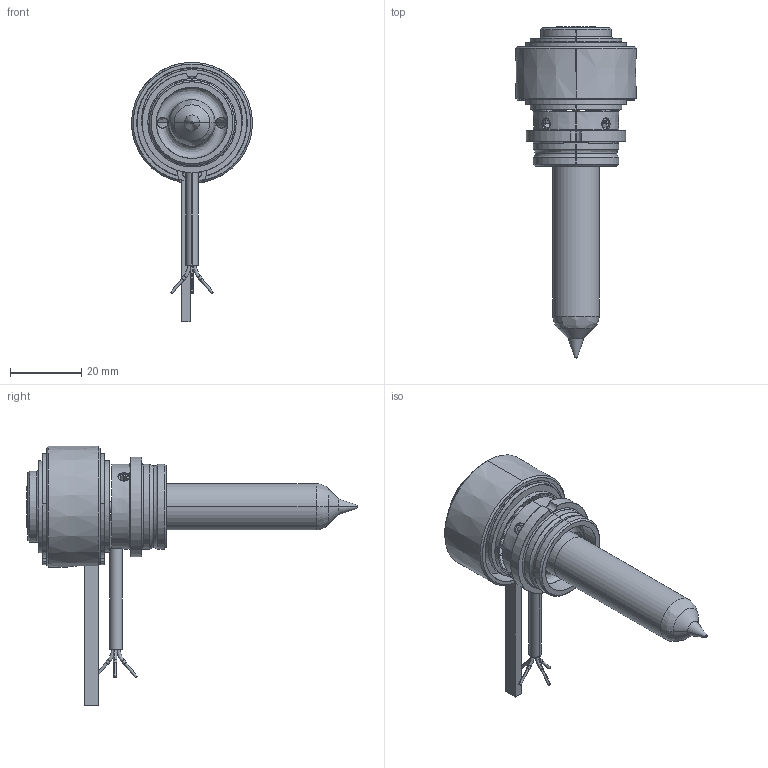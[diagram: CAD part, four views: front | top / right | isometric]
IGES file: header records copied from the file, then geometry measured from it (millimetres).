
Start section: SolidWorks IGES file using analytic representation for surfaces
Global section: file name: C:\Documents and Settings\ws-20\Desktop\TEM\UGGS2530-M-1 [Øf-0.68].IGS; native system: SolidWorks 2012; preprocessor: SolidWorks 2012; author: ws-20; date: 120516.093124; units: millimetre
Bounding box: 34 x 93.3 x 72.9 mm (x, y, z)
Surface area: 15591.1 mm2 (no closed solid volume)
Topology: 0 solids, 0 shells, 207 faces, 2899 edges, 2893 vertices
Faces by surface type: revolution 123, bspline 84
